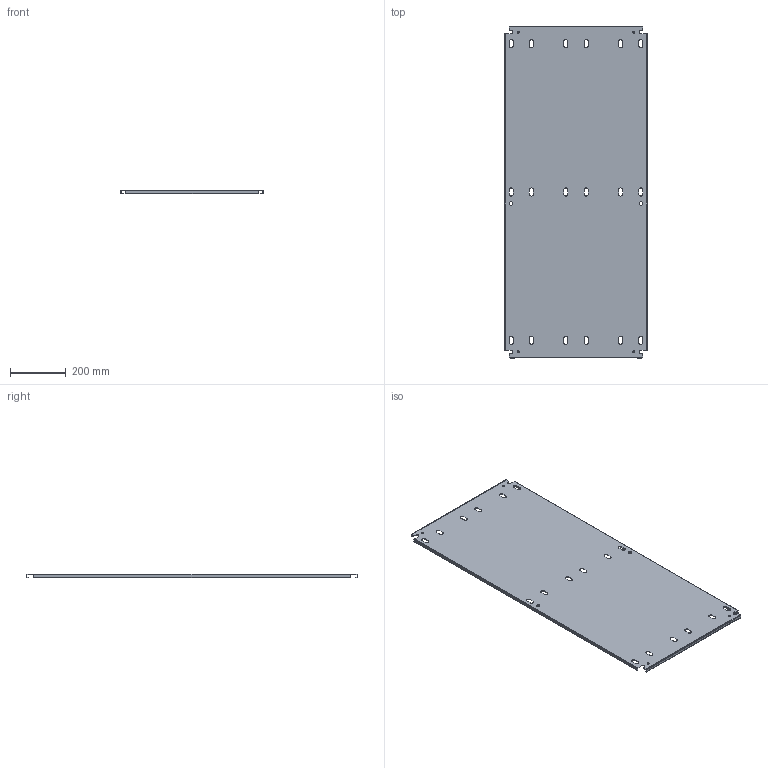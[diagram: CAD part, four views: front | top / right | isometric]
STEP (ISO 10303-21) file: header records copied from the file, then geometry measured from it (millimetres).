
FILE_DESCRIPTION(/* description */ ('1412BTSSCU 20.125" x 47" Inner Panel'),/* implementation_level */ '2;1');
FILE_NAME(/* name */ 'C:\Vault_Workspace\Inventor_Dwg\BoxCad\Result\1412BTSSCU061603\e-mail\3D\1412BTSSCU061603IP1.stp',/* time_stamp */ '2022-09-19T12:51:44-04:00',/* author */ ('BoxCad'),/* organization */ (''),/* preprocessor_version */ 'ST-DEVELOPER v18.1',/* originating_system */ 'Autodesk Inventor 2020',/* authorisation */ '');
FILE_SCHEMA (('AUTOMOTIVE_DESIGN { 1 0 10303 214 3 1 1 }'));
Length unit declared in the file: inch
Products named in the file (2): 1412BTSSCU061603IP1; 1412BTSSCU061603IP1-P
Assembly tree (1 placements, depth 2):
  1412BTSSCU061603IP1
    1412BTSSCU061603IP1-P
Bounding box: 511.18 x 1193.8 x 13 mm (x, y, z)
Volume: 1139989.4 mm3; surface area: 1329017.6 mm2
Topology: 1 solids, 1 shells, 192 faces, 570 edges, 380 vertices
Faces by surface type: plane 106, cylinder 86
Full cylindrical faces by diameter (mm): 7.366 x4, 12.7 x2
Entity records: 6631 total; most frequent: CARTESIAN_POINT 1145, ORIENTED_EDGE 1140, DIRECTION 1132, EDGE_CURVE 570, LINE 398, VECTOR 398, VERTEX_POINT 380, AXIS2_PLACEMENT_3D 367
